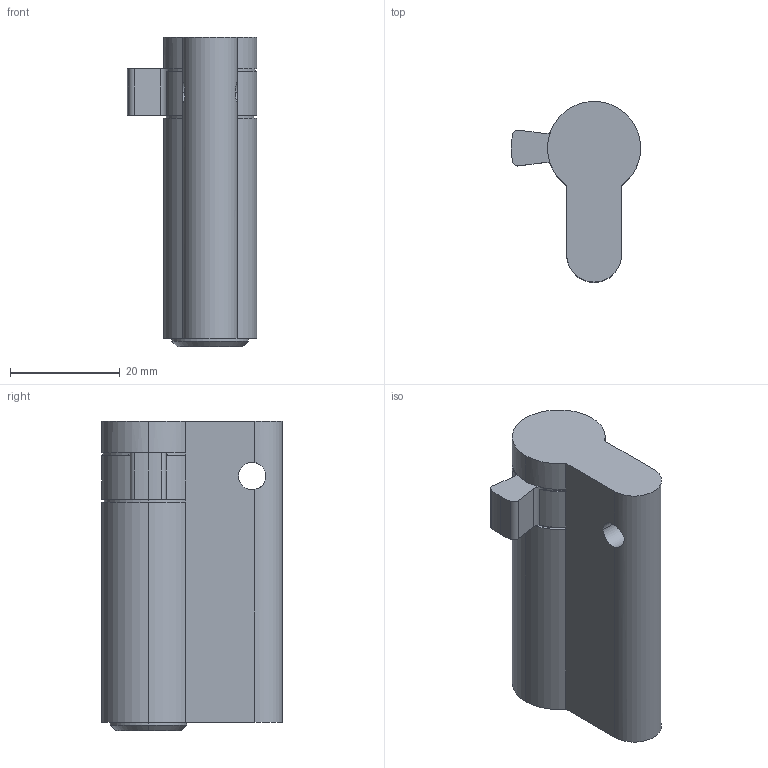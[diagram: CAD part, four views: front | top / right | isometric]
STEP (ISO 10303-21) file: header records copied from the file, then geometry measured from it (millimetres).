
FILE_DESCRIPTION (( 'STEP AP214' ), '1' );
FILE_NAME ('TPL-H-EU-509-R 29Oct2024.STEP', '2024-10-29T22:14:28', ( '' ), ( '' ), 'SwSTEP 2.0', 'SolidWorks 2023', '' );
FILE_SCHEMA (( 'AUTOMOTIVE_DESIGN' ));
Length unit declared in the file: millimetre
Products named in the file (1): TPL-H-EU-509-R 29Oct2024
Bounding box: 23.6 x 33 x 56.5 mm (x, y, z)
Volume: 20987.3 mm3; surface area: 6231.2 mm2
Topology: 1 solids, 1 shells, 46 faces, 127 edges, 80 vertices
Faces by surface type: cylinder 27, plane 16, cone 3
Entity records: 1575 total; most frequent: CARTESIAN_POINT 324, DIRECTION 278, ORIENTED_EDGE 254, EDGE_CURVE 127, AXIS2_PLACEMENT_3D 110, VERTEX_POINT 80, CIRCLE 63, LINE 58
